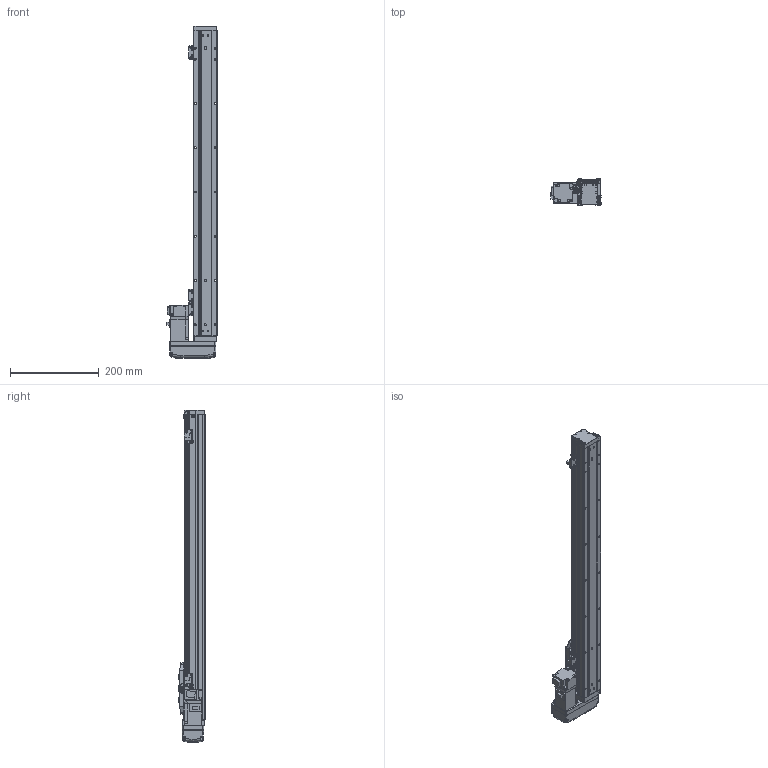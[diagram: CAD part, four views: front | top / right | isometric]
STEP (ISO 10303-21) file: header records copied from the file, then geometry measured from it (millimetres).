
FILE_DESCRIPTION (( 'STEP AP203' ), '1' );
FILE_NAME ('GTH5-550-BL-M10-C4.step', '2022-09-23T00:44:55', ( '微软用户' ), ( '微软中国' ), 'SwSTEP 2.0', 'SolidWorks 2020', '' );
FILE_SCHEMA (( 'CONFIG_CONTROL_DESIGN' ));
Length unit declared in the file: millimetre
Products named in the file (19): GBT 70.3-M3℅6; GBT 70.1-M3℅6; GTH50-027-1_BTHA50-027-2; BTH-M3X5X6; GBT96.1-2002 3×0.8; GTH50-026; GTH50-001_550; GTH50-024; GTH5-550-BL-M10-C4; GBT 70.1-M4×16; GBT 70.1-M2.5×6; GTH50-003; GTH50-028; GTH50-006; GTH50-013; GTH50-022-1; GTH50-004; GTH50-023; HG-KR13
Assembly tree (57 placements, depth 2):
  GTH5-550-BL-M10-C4
    GTH50-006
    GTH50-004
    GBT 70.3-M3℅6  x4
    BTH-M3X5X6  x8
    GTH50-001_550
    GBT 70.1-M4×16  x8
    GTH50-003
    GTH50-013
    GTH50-023  x3
    GBT 70.1-M3℅6  x12
    GBT96.1-2002 3×0.8  x6
    GTH50-024  x3
    GBT 70.1-M2.5×6  x2
    GTH50-028  x2
    GTH50-022-1
    HG-KR13
    GTH50-027-1_BTHA50-027-2
    GTH50-026
Bounding box: 113.8 x 60 x 750 mm (x, y, z)
Volume: 1714465.8 mm3; surface area: 292721.5 mm2
Topology: 59 solids, 59 shells, 2160 faces, 5016 edges, 3076 vertices
Faces by surface type: plane 1142, cylinder 589, cone 219, torus 162, bspline 40, sphere 8
Entity records: 40160 total; most frequent: CARTESIAN_POINT 7947, DIRECTION 6185, ORIENTED_EDGE 5946, EDGE_CURVE 2973, AXIS2_PLACEMENT_3D 2152, VECTOR 1881, LINE 1881, VERTEX_POINT 1878
